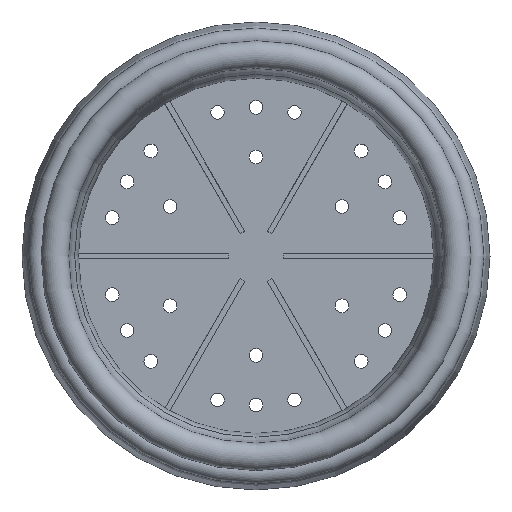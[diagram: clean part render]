
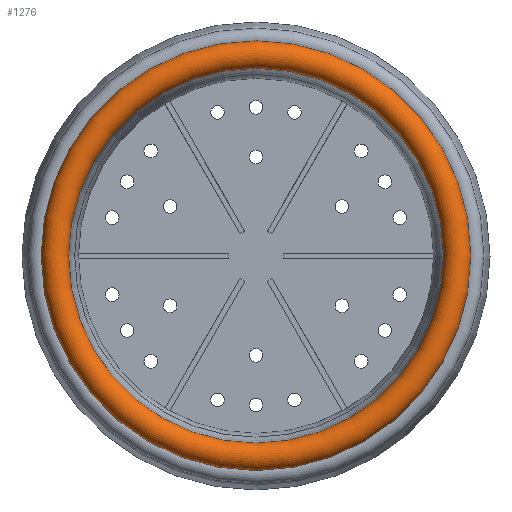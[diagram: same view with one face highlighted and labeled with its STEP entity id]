
A CAD part, top view. The second image highlights one B-rep face of the part: STEP entity #1276.
In plain terms, the highlighted toroidal (fillet/blend) face has major radius 73.5 mm and minor radius 5 mm.
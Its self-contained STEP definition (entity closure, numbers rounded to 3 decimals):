
#18=TOROIDAL_SURFACE('',#1441,73.5,5.);
#154=FACE_OUTER_BOUND('',#245,.T.);
#245=EDGE_LOOP('',(#1097,#1098,#1099,#1100));
#522=CIRCLE('',#1440,77.33);
#523=CIRCLE('',#1442,68.5);
#524=CIRCLE('',#1443,5.);
#643=VERTEX_POINT('',#2201);
#644=VERTEX_POINT('',#2205);
#810=EDGE_CURVE('',#643,#643,#522,.T.);
#812=EDGE_CURVE('',#644,#644,#523,.T.);
#813=EDGE_CURVE('',#644,#643,#524,.T.);
#1097=ORIENTED_EDGE('',*,*,#812,.F.);
#1098=ORIENTED_EDGE('',*,*,#813,.T.);
#1099=ORIENTED_EDGE('',*,*,#810,.T.);
#1100=ORIENTED_EDGE('',*,*,#813,.F.);
#1276=ADVANCED_FACE('',(#154),#18,.T.);
#1440=AXIS2_PLACEMENT_3D('',#2202,#1821,#1822);
#1441=AXIS2_PLACEMENT_3D('',#2204,#1824,#1825);
#1442=AXIS2_PLACEMENT_3D('',#2206,#1826,#1827);
#1443=AXIS2_PLACEMENT_3D('',#2207,#1828,#1829);
#1821=DIRECTION('center_axis',(0.,0.,1.));
#1822=DIRECTION('ref_axis',(1.,0.,0.));
#1824=DIRECTION('center_axis',(0.,0.,1.));
#1825=DIRECTION('ref_axis',(1.,0.,0.));
#1826=DIRECTION('center_axis',(0.,0.,1.));
#1827=DIRECTION('ref_axis',(1.,0.,0.));
#1828=DIRECTION('center_axis',(0.,-1.,0.));
#1829=DIRECTION('ref_axis',(-1.,0.,0.));
#2201=CARTESIAN_POINT('',(-77.33,0.,91.786));
#2202=CARTESIAN_POINT('Origin',(0.,0.,91.786));
#2204=CARTESIAN_POINT('Origin',(0.,0.,95.));
#2205=CARTESIAN_POINT('',(-68.5,0.,95.));
#2206=CARTESIAN_POINT('Origin',(0.,0.,95.));
#2207=CARTESIAN_POINT('Origin',(-73.5,0.,
95.));
